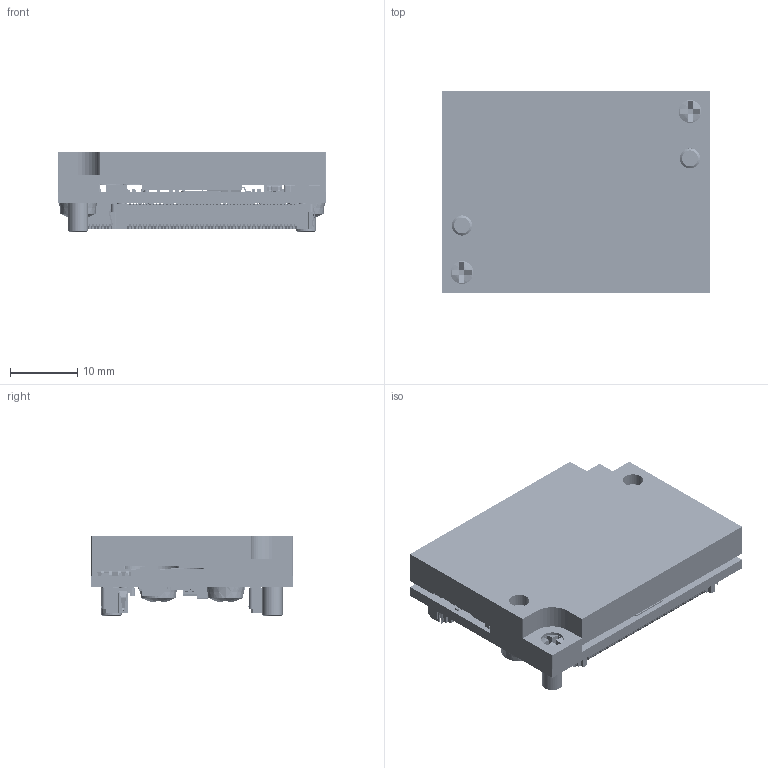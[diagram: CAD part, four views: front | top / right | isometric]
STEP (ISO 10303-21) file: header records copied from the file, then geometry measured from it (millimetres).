
FILE_DESCRIPTION(('Open CASCADE Model'),'2;1');
FILE_NAME('Open CASCADE Shape Model','2023-11-13T08:56:59',('Author'),( 'Open CASCADE'),'Open CASCADE STEP processor 7.5','Open CASCADE 7.5' ,'Unknown');
FILE_SCHEMA(('AUTOMOTIVE_DESIGN { 1 0 10303 214 1 1 1 1 }'));
Length unit declared in the file: millimetre
Products named in the file (214): PCB; Board=projectname; Open CASCADE STEP translator 7.5 1.1.1; R37=projectname; 6866154992; C60=projectname; User Library-SMD CAPACITOR0402; C53=projectname; User Library-SMD 0201 CAPACITOR; C46=projectname; C45=projectname; C44=projectname; C43=projectname; R46=projectname; 6866154672; R45=projectname; R23=projectname; RES_0603-0201; C28=projectname; 6649226704; U10=projectname; 7317905184; Cylinder; 7317905024; Extruded; R38=projectname; R36=projectname; R35=projectname; R33=projectname; D2=projectname; 6649227744; C38=projectname; 6649226864; C37=projectname; 6649226784; C36=projectname; C34=projectname; C33=projectname; U23=projectname; 6866153872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
Assembly tree (335 placements, depth 4):
  PCB
    Board=projectname
      Open CASCADE STEP translator 7.5 1.1.1
    R37=projectname
      6866154992
    C60=projectname
      User Library-SMD CAPACITOR0402
    C53=projectname
      User Library-SMD 0201 CAPACITOR
    C46=projectname
      User Library-SMD CAPACITOR0402
    C45=projectname
      User Library-SMD 0201 CAPACITOR
    C44=projectname
      User Library-SMD 0201 CAPACITOR
    C43=projectname
      User Library-SMD CAPACITOR0402
    R46=projectname
      6866154672
    R45=projectname
      6866154992
    R23=projectname
      RES_0603-0201
    C28=projectname
      6649226704
    U10=projectname
      7317905184
        Cylinder
      7317905024
        Extruded
    R38=projectname
      6866154672
    R36=projectname
      6866154992
    R35=projectname
      6866154992
    R33=projectname
      6866154992
    D2=projectname
      6649227744
    C38=projectname
      6649226864
    C37=projectname
      6649226784
    C36=projectname
      User Library-SMD 0201 CAPACITOR
    C34=projectname
      User Library-SMD 0201 CAPACITOR
    C33=projectname
      User Library-SMD 0201 CAPACITOR
    U23=projectname
      6866153872
    U5=projectname
      7317895344
        Extruded
      7317895104
        Cylinder
    C32=projectname
      6649226784
    C31=projectname
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Bounding box: 40 x 30 x 12 mm (x, y, z)
Volume: 8615.4 mm3; surface area: 12144.9 mm2
Topology: 361 solids, 365 shells, 15630 faces, 41244 edges, 25108 vertices
Faces by surface type: plane 9856, cylinder 4330, sphere 924, bspline 454, torus 36, cone 30
Full cylindrical faces by diameter (mm): 0.4 x2, 0.6 x6, 0.8 x1, 1 x10, 1.32 x2, 1.45 x4, 3 x2, 3.2 x4, 3.4 x2
Entity records: 238441 total; most frequent: CARTESIAN_POINT 41305, ORIENTED_EDGE 32984, DIRECTION 29781, EDGE_CURVE 16492, LINE 13249, VECTOR 13249, VERTEX_POINT 10578, AXIS2_PLACEMENT_3D 8266
